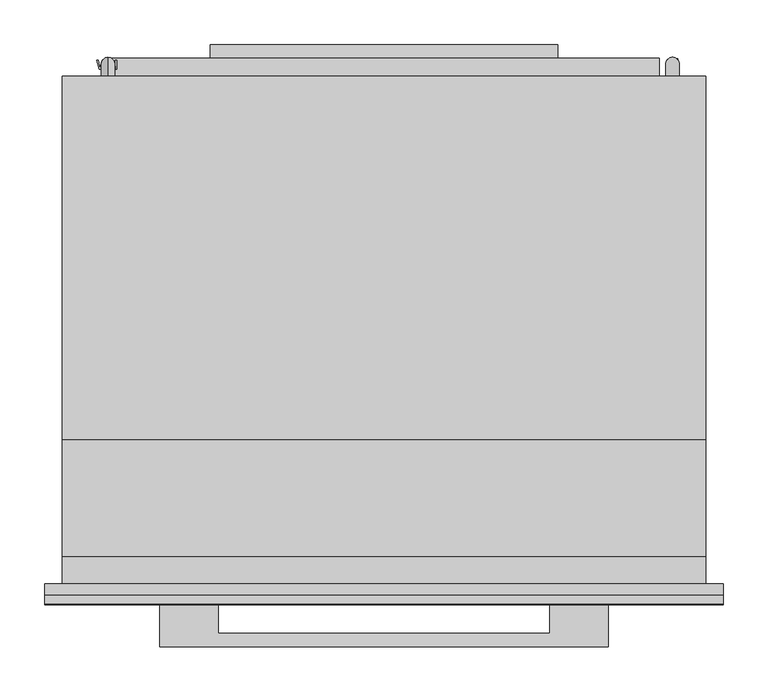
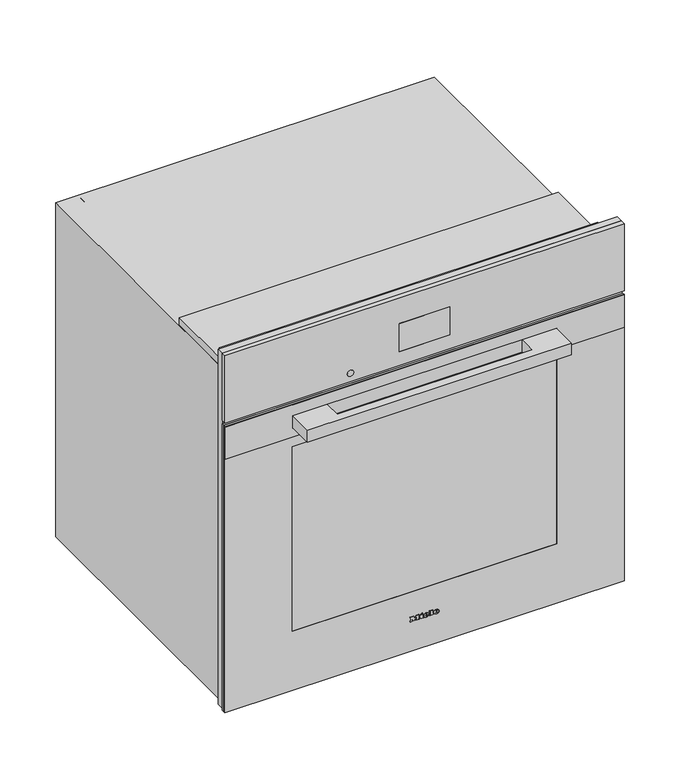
"""IFC4 building model written with IfcOpenShell, lengths in millimetres: proxy geometry, 11805550_USA_H7680BP_EDST-CLST : 22768045_USA_11805550_H7680BP_EDST-CLST."""

import ifcopenshell
import ifcopenshell.guid

model = None  # the IFC model being written
_history = None  # IfcOwnerHistory: only IFC2X3 demands one
_inside = {}  # id of a spatial element -> (the spatial element, [elements in it])
_under = {}  # id of a project, library or spatial element -> (it, [spatial elements below it])
_declared = {}  # id of a project -> (the project, [libraries it declares])
_typed = {}  # id of a type object -> (the type object, [elements of that type])
_made_of = {}  # id of a material, layer set ... -> (it, [elements and type objects made of it])


def new_model(schema):
    """Start an empty IFC model of exactly this schema.

    Asked for "IFC4X3", IfcOpenShell would pick the latest addendum, in which some entities
    have other attributes; the version numbers below select the first issue.
    IFC2X3 requires an IfcOwnerHistory on every rooted entity: one is made here for all.
    """
    global model, _history
    if schema == "IFC4X3":
        model = ifcopenshell.file(schema_version=(4, 3, 0, 0))
    else:
        model = ifcopenshell.file(schema=schema)
    _inside.clear()
    _under.clear()
    _declared.clear()
    _typed.clear()
    _made_of.clear()
    _history = None
    if model.schema == "IFC2X3":
        org = make("IfcOrganization", Name="unknown")
        user = make(
            "IfcPersonAndOrganization",
            ThePerson=make("IfcPerson", FamilyName="unknown"),
            TheOrganization=org,
        )
        app = make(
            "IfcApplication",
            ApplicationDeveloper=org,
            Version="unknown",
            ApplicationFullName="unknown",
            ApplicationIdentifier="unknown",
        )
        _history = make(
            "IfcOwnerHistory",
            OwningUser=user,
            OwningApplication=app,
            ChangeAction="ADDED",
            CreationDate=0,
        )
    return model


def make(cls, **values):
    """One entity of the class cls with the attributes given. An attribute that is None is left unset."""
    return model.create_entity(
        cls, **{name: value for name, value in values.items() if value is not None}
    )


def rooted(cls, **values):
    """An entity with a GlobalId (a new one), such as an element, a storey or a relation."""
    return make(cls, GlobalId=ifcopenshell.guid.new(), OwnerHistory=_history, **values)


def si_unit(unit_type, name, prefix=None):
    """IfcSIUnit, for example si_unit("LENGTHUNIT", "METRE", prefix="MILLI")."""
    return make("IfcSIUnit", UnitType=unit_type, Prefix=prefix, Name=name)


def assignment(units):
    """IfcUnitAssignment: the units of a project."""
    return None if units is None else make("IfcUnitAssignment", Units=units)


def point(xyz):
    """IfcCartesianPoint."""
    return None if xyz is None else make("IfcCartesianPoint", Coordinates=xyz)


def direction(xyz):
    """IfcDirection."""
    return None if xyz is None else make("IfcDirection", DirectionRatios=xyz)


def frame(location, z_axis=None, x_axis=None):
    """IfcAxis2Placement3D, a coordinate frame: its origin and axes. An axis left out is left unset."""
    return make(
        "IfcAxis2Placement3D",
        Location=point(location),
        Axis=direction(z_axis),
        RefDirection=direction(x_axis),
    )


def frame_2d(location, x_axis=None):
    """IfcAxis2Placement2D, a coordinate frame in the plane: its origin and x axis."""
    return make(
        "IfcAxis2Placement2D", Location=point(location), RefDirection=direction(x_axis)
    )


def origin():
    """The frame at (0, 0, 0) with its axes left unset."""
    return frame((0.0, 0.0, 0.0))


def place(relative_to, where):
    """IfcLocalPlacement: puts the frame where relative to a parent placement (None: the world)."""
    return make(
        "IfcLocalPlacement", PlacementRelTo=relative_to, RelativePlacement=where
    )


def context(
    kind, dimensions, precision=None, world=None, true_north=None, identifier=None
):
    """IfcGeometricRepresentationContext, for example the 3D "Model" context."""
    return make(
        "IfcGeometricRepresentationContext",
        ContextIdentifier=identifier,
        ContextType=kind,
        CoordinateSpaceDimension=dimensions,
        Precision=precision,
        WorldCoordinateSystem=world,
        TrueNorth=true_north,
    )


def project(units=None, contexts=None):
    """IfcProject with its units and contexts."""
    return rooted(
        "IfcProject",
        Name="project",
        RepresentationContexts=contexts,
        UnitsInContext=assignment(units),
    )


def spatial(cls, under=None, at=None, **own):
    """A site, building, storey or space (cls), placed at a placement, below another one or the project."""
    s = rooted(cls, ObjectPlacement=at, **own)
    if under is not None:
        _under.setdefault(under.id(), (under, []))[1].append(s)
    return s


def polyline(points):
    """IfcPolyline through the points."""
    return make("IfcPolyline", Points=[point(p) for p in points])


def circle_curve(where, radius):
    """IfcCircle in the frame where."""
    return make("IfcCircle", Position=where, Radius=radius)


def ellipse_curve(where, semi_axis1, semi_axis2):
    """IfcEllipse in the frame where."""
    return make(
        "IfcEllipse", Position=where, SemiAxis1=semi_axis1, SemiAxis2=semi_axis2
    )


def trimmed(basis, trim1, trim2, sense, master):
    """IfcTrimmedCurve: the piece of a basis curve between two trims."""
    return make(
        "IfcTrimmedCurve",
        BasisCurve=basis,
        Trim1=trim1,
        Trim2=trim2,
        SenseAgreement=sense,
        MasterRepresentation=master,
    )


def segment(curve, same_sense, transition):
    """IfcCompositeCurveSegment."""
    return make(
        "IfcCompositeCurveSegment",
        Transition=transition,
        SameSense=same_sense,
        ParentCurve=curve,
    )


def composite_curve(segments, self_intersect=None):
    """IfcCompositeCurve: segments joined end to end."""
    return make("IfcCompositeCurve", Segments=segments, SelfIntersect=self_intersect)


def outline(outer, holes=None, kind="AREA"):
    """IfcArbitraryClosedProfileDef: a profile drawn as a closed curve; with holes, ...WithVoids."""
    if holes is None:
        return make("IfcArbitraryClosedProfileDef", ProfileType=kind, OuterCurve=outer)
    return make(
        "IfcArbitraryProfileDefWithVoids",
        ProfileType=kind,
        OuterCurve=outer,
        InnerCurves=holes,
    )


def extrude(swept, where, along, depth):
    """IfcExtrudedAreaSolid: the profile swept, set in the frame where, extruded along a direction by depth."""
    return make(
        "IfcExtrudedAreaSolid",
        SweptArea=swept,
        Position=where,
        ExtrudedDirection=direction(along),
        Depth=depth,
    )


def faces_of(points, faces, orient=None, outer=None):
    """IfcFace entities. A face is a list of loops; a loop is a list of indices into points, from 0.

    orient and outer hold one flag for each loop. By default every Orientation is true, the
    first loop of a face is its IfcFaceOuterBound and the others are IfcFaceBound.
    """
    made = []
    for i, loops in enumerate(faces):
        bounds = []
        for j, loop in enumerate(loops):
            is_outer = j == 0 if outer is None else outer[i][j]
            bounds.append(
                make(
                    "IfcFaceOuterBound" if is_outer else "IfcFaceBound",
                    Bound=make("IfcPolyLoop", Polygon=[points[k] for k in loop]),
                    Orientation=True if orient is None else orient[i][j],
                )
            )
        made.append(make("IfcFace", Bounds=bounds))
    return made


def faceted_brep(points, faces, orient=None, outer=None, voids=None):
    """IfcFacetedBrep: a solid bounded by flat faces; with voids (closed shells), ...WithVoids."""
    shared = [point(p) for p in points]
    hull = make("IfcClosedShell", CfsFaces=faces_of(shared, faces, orient, outer))
    if voids is None:
        return make("IfcFacetedBrep", Outer=hull)
    return make(
        "IfcFacetedBrepWithVoids",
        Outer=hull,
        Voids=[
            make(cls, CfsFaces=faces_of(shared, fs, o, b)) for cls, fs, o, b in voids
        ],
    )


def shape(context_of_items, identifier, shape_type, items):
    """IfcShapeRepresentation: the items that make up one representation, for example the "Body"."""
    return make(
        "IfcShapeRepresentation",
        ContextOfItems=context_of_items,
        RepresentationIdentifier=identifier,
        RepresentationType=shape_type,
        Items=items,
    )


def source(mapping_origin, context_of_items, identifier, shape_type, items):
    """IfcRepresentationMap: a shape defined once, which mapped items show again and again."""
    return make(
        "IfcRepresentationMap",
        MappingOrigin=mapping_origin,
        MappedRepresentation=shape(context_of_items, identifier, shape_type, items),
    )


def transform(
    local_origin,
    x_axis=None,
    y_axis=None,
    z_axis=None,
    scale=None,
    scale2=None,
    scale3=None,
    uniform=True,
):
    """IfcCartesianTransformationOperator3D, or its non-uniform kind. x_axis, y_axis, z_axis: its Axis1, 2, 3."""
    if uniform:
        return make(
            "IfcCartesianTransformationOperator3D",
            Axis1=direction(x_axis),
            Axis2=direction(y_axis),
            LocalOrigin=point(local_origin),
            Scale=scale,
            Axis3=direction(z_axis),
        )
    return make(
        "IfcCartesianTransformationOperator3DnonUniform",
        Axis1=direction(x_axis),
        Axis2=direction(y_axis),
        LocalOrigin=point(local_origin),
        Scale=scale,
        Axis3=direction(z_axis),
        Scale2=scale2,
        Scale3=scale3,
    )


def mapped(mapping_source, mapping_target):
    """IfcMappedItem: shows the shape of a source again, moved by a transform."""
    return make(
        "IfcMappedItem", MappingSource=mapping_source, MappingTarget=mapping_target
    )


def made_of(thing, what):
    """Note that an element or type object is made of a material, layer set ...; save() writes the relation."""
    if what is not None:
        _made_of.setdefault(what.id(), (what, []))[1].append(thing)
    return thing


def element(
    cls,
    number,
    at=None,
    inside=None,
    cuts=None,
    type_object=None,
    material=None,
    context=None,
    identifier="Body",
    shape_type=None,
    held_by="IfcProductDefinitionShape",
    body=None,
    shapes=None,
    **own,
):
    """One element of the class cls, such as IfcWall. Its Tag is "e" and its number.

    at: its placement. inside: the storey or other place that contains it. cuts: it is an
    opening in that element (IfcRelVoidsElement). A single representation is given by context,
    identifier, shape_type and body (its items); several are given by shapes. held_by: the class
    of the entity that holds the representations. save() writes the other relations.
    """
    e = rooted(cls, Tag="e%d" % number, ObjectPlacement=at, **own)
    if body is not None:
        shapes = [shape(context, identifier, shape_type, body)]
    if shapes is not None:
        e.Representation = make(held_by, Representations=shapes)
    if inside is not None:
        _inside.setdefault(inside.id(), (inside, []))[1].append(e)
    if cuts is not None:
        rooted(
            "IfcRelVoidsElement", RelatingBuildingElement=cuts, RelatedOpeningElement=e
        )
    if type_object is not None:
        _typed.setdefault(type_object.id(), (type_object, []))[1].append(e)
    return made_of(e, material)


def aggregate(whole, parts):
    """IfcRelAggregates: a whole, such as a stair, and the parts it consists of."""
    return rooted("IfcRelAggregates", RelatingObject=whole, RelatedObjects=parts)


def save(model, path):
    """Write the relations noted so far, then the file.

    IfcRelAggregates (storeys below a building ...), IfcRelContainedInSpatialStructure (elements
    in a storey), IfcRelDefinesByType, IfcRelAssociatesMaterial and IfcRelDeclares: one each for
    every whole, place, type object, material and project.
    """
    for whole, parts in _under.values():
        aggregate(whole, parts)
    for where, things in _inside.values():
        rooted(
            "IfcRelContainedInSpatialStructure",
            RelatedElements=things,
            RelatingStructure=where,
        )
    for kind, things in _typed.values():
        rooted("IfcRelDefinesByType", RelatedObjects=things, RelatingType=kind)
    for what, things in _made_of.values():
        rooted("IfcRelAssociatesMaterial", RelatedObjects=things, RelatingMaterial=what)
    for by, libraries in _declared.values():
        rooted("IfcRelDeclares", RelatingContext=by, RelatedDefinitions=libraries)
    model.write(path)


def plane_surface(at):
    """IfcPlane: the flat surface through the origin of the frame at, square to its z axis."""
    return make("IfcPlane", Position=at)


def cylinder_surface(at, radius):
    """IfcCylindricalSurface: all points at the distance radius from the z axis of the frame at."""
    return make("IfcCylindricalSurface", Position=at, Radius=radius)


def revolved_surface(curve, axis_point, axis_direction):
    """IfcSurfaceOfRevolution: the curve turned about the line through axis_point along axis_direction."""
    return make(
        "IfcSurfaceOfRevolution",
        SweptCurve=make("IfcArbitraryOpenProfileDef", ProfileType="CURVE", Curve=curve),
        AxisPosition=make("IfcAxis1Placement", Location=point(axis_point), Axis=direction(axis_direction)),
    )


def extruded_surface(curve, direction_of_extrusion, depth):
    """IfcSurfaceOfLinearExtrusion: the curve pushed along a direction by depth."""
    return make(
        "IfcSurfaceOfLinearExtrusion",
        SweptCurve=make("IfcArbitraryOpenProfileDef", ProfileType="CURVE", Curve=curve),
        ExtrudedDirection=direction(direction_of_extrusion),
        Depth=depth,
    )


def advanced_brep(points, edges, surfaces, faces):
    """IfcAdvancedBrep: a solid bounded by faces that lie on surfaces and meet in shared edges.

    An edge is (start, end): straight between two places in points (the first is 0);
    or (start, end, curve); or (start, end, curve, False) where it runs against its curve.
    A face is (place in surfaces, loops), or (place, loops, False) where it looks against
    its surface's normal. A loop lists edges by number (the first is 1), with a minus sign
    where the edge is run from its end to its start. The first loop is the outer one.
    """
    corners = [point(p) for p in points]
    vertices = [make("IfcVertexPoint", VertexGeometry=c) for c in corners]
    made = []
    for start, end, *more in edges:
        made.append(
            make(
                "IfcEdgeCurve",
                EdgeStart=vertices[start],
                EdgeEnd=vertices[end],
                EdgeGeometry=more[0] if more else make("IfcPolyline", Points=[corners[start], corners[end]]),
                SameSense=more[1] if len(more) > 1 else True,
            )
        )
    hull = []
    for where, loops, *sense in faces:
        bounds = []
        for j, loop in enumerate(loops):
            ring = [make("IfcOrientedEdge", EdgeElement=made[abs(k) - 1], Orientation=k > 0) for k in loop]
            bounds.append(
                make(
                    "IfcFaceOuterBound" if j == 0 else "IfcFaceBound",
                    Bound=make("IfcEdgeLoop", EdgeList=ring),
                    Orientation=True,
                )
            )
        hull.append(make("IfcAdvancedFace", Bounds=bounds, FaceSurface=surfaces[where], SameSense=sense[0] if sense else True))
    return make("IfcAdvancedBrep", Outer=make("IfcClosedShell", CfsFaces=hull))


def specialty_equipment_48775440(model_context):
    return source(origin(), model_context, "Body", "SolidModel", [
        advanced_brep(
        [(21.28, -23.0, 73.133), (21.28, -23.0, 74.042), (27.301, -23.0, 74.042), (16.825, -23.0, 74.042), (19.3, -23.0, 71.0), (27.148, -23.0, 73.133), (24.43, -23.0, 73.133), (22.288, -23.0, 72.125), (21.28, -23.0, 75.194), (21.28, -23.0, 76.175), (22.819, -23.0, 76.175), (22.819, -23.0, 75.194), (21.28, -22.0, 73.133), (22.288, -22.0, 72.125), (24.43, -22.0, 73.133), (27.148, -22.0, 73.133), (19.3, -22.0, 71.0), (16.825, -22.0, 74.042), (27.301, -22.0, 74.042), (21.28, -22.0, 74.042), (21.28, -22.0, 75.194), (22.819, -22.0, 75.194), (22.819, -22.0, 76.175), (21.28, -22.0, 76.175)],
        [
            (0, 1),
            (1, 2),
            (2, 3, ellipse_curve(frame((22.063, -23.0, 74.042), z_axis=(0.0, -1.0, 0.0), x_axis=(-1.0, 0.0, 0.0)), 5.238, 4.329)),
            (3, 4, circle_curve(frame((20.3080491, -23.0, 74.348), z_axis=(0.0, -1.0, 0.0), x_axis=(0.0, 0.0, -1.0)), 3.4964649)),
            (4, 5, circle_curve(frame((21.9581428, -23.0, 76.724), z_axis=(0.0, -1.0, 0.0), x_axis=(0.0, 0.0, -1.0)), 6.3110933)),
            (5, 6),
            (6, 7, circle_curve(frame((22.7279412, -23.0, 73.97), z_axis=(0.0, 1.0, 0.0), x_axis=(0.0, 0.0, -1.0)), 1.896727)),
            (7, 0, circle_curve(frame((22.288, -23.0, 73.133), z_axis=(0.0, 1.0, 0.0), x_axis=(0.0, 0.0, -1.0)), 1.008)),
            (8, 9),
            (9, 10, circle_curve(frame((22.0495, -23.0, 76.175), z_axis=(0.0, 1.0, 0.0), x_axis=(0.0, 0.0, -1.0)), 0.7695)),
            (10, 11),
            (11, 8),
            (12, 13, circle_curve(frame((22.288, -22.0, 73.133), z_axis=(0.0, -1.0, 0.0), x_axis=(0.0, 0.0, -1.0)), 1.008)),
            (13, 14, circle_curve(frame((22.7279412, -22.0, 73.97), z_axis=(0.0, -1.0, 0.0), x_axis=(0.0, 0.0, -1.0)), 1.896727)),
            (14, 15),
            (15, 16, circle_curve(frame((21.9581428, -22.0, 76.724), z_axis=(0.0, 1.0, 0.0), x_axis=(0.0, 0.0, -1.0)), 6.3110933)),
            (16, 17, circle_curve(frame((20.3080491, -22.0, 74.348), z_axis=(0.0, 1.0, 0.0), x_axis=(0.0, 0.0, -1.0)), 3.4964649)),
            (17, 18, ellipse_curve(frame((22.063, -22.0, 74.042), z_axis=(0.0, 1.0, 0.0), x_axis=(-1.0, 0.0, 0.0)), 5.238, 4.329)),
            (18, 19),
            (19, 12),
            (20, 21),
            (21, 22),
            (22, 23, circle_curve(frame((22.0495, -22.0, 76.175), z_axis=(0.0, -1.0, 0.0), x_axis=(0.0, 0.0, -1.0)), 0.7695)),
            (23, 20),
            (0, 12),
            (19, 1),
            (18, 2),
            (5, 15),
            (14, 6),
            (17, 3),
            (13, 7),
            (16, 4),
            (8, 20),
            (23, 9),
            (22, 10),
            (21, 11),
        ],
        [
            plane_surface(frame((21.28, -23.0, 74.042), z_axis=(0.0, -1.0, 0.0), x_axis=(0.0, 0.0, 1.0))),
            plane_surface(frame((21.28, -22.0, 74.042), z_axis=(0.0, 1.0, 0.0), x_axis=(0.0, 0.0, -1.0))),
            plane_surface(frame((21.28, -23.0, 73.133), z_axis=(1.0, 0.0, 0.0), x_axis=(0.0, 1.0, 0.0))),
            plane_surface(frame((21.28, -23.0, 74.042), z_axis=(0.0, 0.0, -1.0), x_axis=(0.0, 1.0, 0.0))),
            plane_surface(frame((27.148, -23.0, 73.133), z_axis=(0.0, 0.0, 1.0), x_axis=(0.0, 1.0, 0.0))),
            extruded_surface(trimmed(ellipse_curve(frame((22.063, -21.0, 74.042), z_axis=(0.0, -1.0, 0.0), x_axis=(-1.0, 0.0, 0.0)), 5.238, 4.329), [point((27.301, -21.0, 74.042))], [point((16.825, -21.0, 74.042))], True, "CARTESIAN"), (0.0, -1.0, 0.0), 1.0),
            revolved_surface(polyline([(22.7279412, -22.0, 72.073273), (22.7279412, -23.0, 72.073273)]), (22.7279412, -22.0, 73.97), (0.0, 1.0, 0.0)),
            revolved_surface(polyline([(22.288, -22.0, 72.125), (22.288, -23.0, 72.125)]), (22.288, -22.0, 73.133), (0.0, 1.0, 0.0)),
            cylinder_surface(frame((20.3080491, -22.0, 74.348), z_axis=(0.0, -1.0, 0.0), x_axis=(0.0, 0.0, -1.0)), 3.4964649),
            cylinder_surface(frame((21.9581428, -22.0, 76.724), z_axis=(0.0, -1.0, 0.0), x_axis=(0.0, 0.0, -1.0)), 6.3110933),
            plane_surface(frame((21.28, -23.0, 75.194), z_axis=(1.0, 0.0, 0.0), x_axis=(0.0, 1.0, 0.0))),
            revolved_surface(polyline([(22.0495, -22.0, 75.4055), (22.0495, -23.0, 75.4055)]), (22.0495, -22.0, 76.175), (0.0, 1.0, 0.0)),
            plane_surface(frame((22.819, -23.0, 76.175), z_axis=(-1.0, 0.0, 0.0), x_axis=(0.0, 1.0, 0.0))),
            plane_surface(frame((22.819, -23.0, 75.194), z_axis=(0.0, 0.0, 1.0), x_axis=(0.0, 1.0, 0.0))),
        ],
        [
            (0, [[1, 2, 3, 4, 5, 6, 7, 8], [9, 10, 11, 12]]),
            (1, [[13, 14, 15, 16, 17, 18, 19, 20], [21, 22, 23, 24]]),
            (2, [[-1, 25, -20, 26]]),
            (3, [[-2, -26, -19, 27]]),
            (4, [[-6, 28, -15, 29]]),
            (5, [[-3, -27, -18, 30]]),
            (6, [[-7, -29, -14, 31]]),
            (7, [[-8, -31, -13, -25]]),
            (8, [[-4, -30, -17, 32]]),
            (9, [[-5, -32, -16, -28]]),
            (10, [[-9, 33, -24, 34]]),
            (11, [[-10, -34, -23, 35]]),
            (12, [[-11, -35, -22, 36]]),
            (13, [[-12, -36, -21, -33]]),
        ],
    ),
        advanced_brep(
        [(2.497, -23.0, 73.133), (2.497, -23.0, 74.042), (8.518, -23.0, 74.042), (-1.958, -23.0, 74.042), (0.517, -23.0, 71.0), (8.365, -23.0, 73.133), (5.647, -23.0, 73.133), (3.505, -23.0, 72.125), (2.497, -23.0, 75.194), (2.497, -23.0, 76.175), (4.036, -23.0, 76.175), (4.036, -23.0, 75.194), (2.497, -22.0, 73.133), (3.505, -22.0, 72.125), (5.647, -22.0, 73.133), (8.365, -22.0, 73.133), (0.517, -22.0, 71.0), (-1.958, -22.0, 74.042), (8.518, -22.0, 74.042), (2.497, -22.0, 74.042), (2.497, -22.0, 75.194), (4.036, -22.0, 75.194), (4.036, -22.0, 76.175), (2.497, -22.0, 76.175)],
        [
            (0, 1),
            (1, 2),
            (2, 3, ellipse_curve(frame((3.28, -23.0, 74.042), z_axis=(0.0, -1.0, 0.0), x_axis=(-1.0, 0.0, 0.0)), 5.238, 4.329)),
            (3, 4, circle_curve(frame((1.5250491, -23.0, 74.348), z_axis=(0.0, -1.0, 0.0), x_axis=(0.0, 0.0, -1.0)), 3.4964649)),
            (4, 5, circle_curve(frame((3.1751428, -23.0, 76.724), z_axis=(0.0, -1.0, 0.0), x_axis=(0.0, 0.0, -1.0)), 6.3110933)),
            (5, 6),
            (6, 7, circle_curve(frame((3.9449412, -23.0, 73.97), z_axis=(0.0, 1.0, 0.0), x_axis=(0.0, 0.0, -1.0)), 1.896727)),
            (7, 0, circle_curve(frame((3.505, -23.0, 73.133), z_axis=(0.0, 1.0, 0.0), x_axis=(0.0, 0.0, -1.0)), 1.008)),
            (8, 9),
            (9, 10, circle_curve(frame((3.2665, -23.0, 76.175), z_axis=(0.0, 1.0, 0.0), x_axis=(0.0, 0.0, -1.0)), 0.7695)),
            (10, 11),
            (11, 8),
            (12, 13, circle_curve(frame((3.505, -22.0, 73.133), z_axis=(0.0, -1.0, 0.0), x_axis=(0.0, 0.0, -1.0)), 1.008)),
            (13, 14, circle_curve(frame((3.9449412, -22.0, 73.97), z_axis=(0.0, -1.0, 0.0), x_axis=(0.0, 0.0, -1.0)), 1.896727)),
            (14, 15),
            (15, 16, circle_curve(frame((3.1751428, -22.0, 76.724), z_axis=(0.0, 1.0, 0.0), x_axis=(0.0, 0.0, -1.0)), 6.3110933)),
            (16, 17, circle_curve(frame((1.5250491, -22.0, 74.348), z_axis=(0.0, 1.0, 0.0), x_axis=(0.0, 0.0, -1.0)), 3.4964649)),
            (17, 18, ellipse_curve(frame((3.28, -22.0, 74.042), z_axis=(0.0, 1.0, 0.0), x_axis=(-1.0, 0.0, 0.0)), 5.238, 4.329)),
            (18, 19),
            (19, 12),
            (20, 21),
            (21, 22),
            (22, 23, circle_curve(frame((3.2665, -22.0, 76.175), z_axis=(0.0, -1.0, 0.0), x_axis=(0.0, 0.0, -1.0)), 0.7695)),
            (23, 20),
            (0, 12),
            (19, 1),
            (18, 2),
            (5, 15),
            (14, 6),
            (17, 3),
            (13, 7),
            (16, 4),
            (8, 20),
            (23, 9),
            (22, 10),
            (21, 11),
        ],
        [
            plane_surface(frame((2.497, -23.0, 74.042), z_axis=(0.0, -1.0, 0.0), x_axis=(0.0, 0.0, 1.0))),
            plane_surface(frame((2.497, -22.0, 74.042), z_axis=(0.0, 1.0, 0.0), x_axis=(0.0, 0.0, -1.0))),
            plane_surface(frame((2.497, -23.0, 73.133), z_axis=(1.0, 0.0, 0.0), x_axis=(0.0, 1.0, 0.0))),
            plane_surface(frame((2.497, -23.0, 74.042), z_axis=(0.0, 0.0, -1.0), x_axis=(0.0, 1.0, 0.0))),
            plane_surface(frame((8.365, -23.0, 73.133), z_axis=(0.0, 0.0, 1.0), x_axis=(0.0, 1.0, 0.0))),
            extruded_surface(trimmed(ellipse_curve(frame((3.28, -21.0, 74.042), z_axis=(0.0, -1.0, 0.0), x_axis=(-1.0, 0.0, 0.0)), 5.238, 4.329), [point((8.518, -21.0, 74.042))], [point((-1.958, -21.0, 74.042))], True, "CARTESIAN"), (0.0, -1.0, 0.0), 1.0),
            revolved_surface(polyline([(3.9449412, -22.0, 72.073273), (3.9449412, -23.0, 72.073273)]), (3.9449412, -22.0, 73.97), (0.0, 1.0, 0.0)),
            revolved_surface(polyline([(3.505, -22.0, 72.125), (3.505, -23.0, 72.125)]), (3.505, -22.0, 73.133), (0.0, 1.0, 0.0)),
            cylinder_surface(frame((1.5250491, -22.0, 74.348), z_axis=(0.0, -1.0, 0.0), x_axis=(0.0, 0.0, -1.0)), 3.4964649),
            cylinder_surface(frame((3.1751428, -22.0, 76.724), z_axis=(0.0, -1.0, 0.0), x_axis=(0.0, 0.0, -1.0)), 6.3110933),
            plane_surface(frame((2.497, -23.0, 75.194), z_axis=(1.0, 0.0, 0.0), x_axis=(0.0, 1.0, 0.0))),
            revolved_surface(polyline([(3.2665, -22.0, 75.4055), (3.2665, -23.0, 75.4055)]), (3.2665, -22.0, 76.175), (0.0, 1.0, 0.0)),
            plane_surface(frame((4.036, -23.0, 76.175), z_axis=(-1.0, 0.0, 0.0), x_axis=(0.0, 1.0, 0.0))),
            plane_surface(frame((4.036, -23.0, 75.194), z_axis=(0.0, 0.0, 1.0), x_axis=(0.0, 1.0, 0.0))),
        ],
        [
            (0, [[1, 2, 3, 4, 5, 6, 7, 8], [9, 10, 11, 12]]),
            (1, [[13, 14, 15, 16, 17, 18, 19, 20], [21, 22, 23, 24]]),
            (2, [[-1, 25, -20, 26]]),
            (3, [[-2, -26, -19, 27]]),
            (4, [[-6, 28, -15, 29]]),
            (5, [[-3, -27, -18, 30]]),
            (6, [[-7, -29, -14, 31]]),
            (7, [[-8, -31, -13, -25]]),
            (8, [[-4, -30, -17, 32]]),
            (9, [[-5, -32, -16, -28]]),
            (10, [[-9, 33, -24, 34]]),
            (11, [[-10, -34, -23, 35]]),
            (12, [[-11, -35, -22, 36]]),
            (13, [[-12, -36, -21, -33]]),
        ],
    ),
        extrude(outline(polyline([(79.469, -7.34), (78.011, -6.656), (79.433, -3.605), (80.891, -4.28), (79.469, -7.34)])), frame((0.0, -23.0, 0.0), z_axis=(0.0, 1.0, 0.0), x_axis=(0.0, 0.0, 1.0)), (0.0, 0.0, 1.0), 1.0),
        extrude(outline(polyline([(77.813, -9.563), (76.202, -9.563), (76.202, -8.492), (72.512, -8.492), (72.512, -9.563), (71.0, -9.563), (71.0, -2.462), (72.512, -2.462), (72.512, -3.506), (77.813, -3.506), (77.813, -9.563)])), frame((0.0, -23.0, 0.0), z_axis=(0.0, 1.0, 0.0), x_axis=(0.0, 0.0, 1.0)), (0.0, 0.0, 1.0), 1.0),
        extrude(outline(polyline([(78.533, 9.022), (78.533, 10.102), (72.512, 10.102), (72.512, 9.022), (71.0, 9.022), (71.0, 16.321), (72.512, 16.321), (72.512, 15.214), (80.0, 15.214), (80.0, 9.022), (78.533, 9.022)])), frame((0.0, -23.0, 0.0), z_axis=(0.0, 1.0, 0.0), x_axis=(0.0, 0.0, 1.0)), (0.0, 0.0, 1.0), 1.0),
        extrude(outline(polyline([(78.533, -27.5), (78.533, -26.411), (72.512, -26.411), (72.512, -27.5), (71.0, -27.5), (71.0, -23.54), (72.512, -23.54), (72.512, -24.62), (76.3341247, -24.62), (71.0, -20.597), (76.4402223, -16.556), (72.512, -16.556), (72.512, -17.663), (71.0, -17.663), (71.0, -10.481), (72.512, -10.481), (72.512, -11.624), (78.533, -11.624), (78.533, -10.481), (80.0, -10.481), (80.0, -15.962), (76.625, -18.59), (80.0, -21.227), (80.0, -27.5), (78.533, -27.5)])), frame((0.0, -23.0, 0.0), z_axis=(0.0, 1.0, 0.0), x_axis=(0.0, 0.0, 1.0)), (0.0, 0.0, 1.0), 1.0),
        extrude(outline(polyline([(-250.0, -70.3), (-250.0, -22.0), (-185.0, -22.0), (-185.0, -55.3), (185.0, -55.3), (185.0, -22.0), (250.0, -22.0), (250.0, -70.3), (-250.0, -70.3)])), frame((0.0, 0.0, 538.0), z_axis=(0.0, 0.0, 1.0), x_axis=(1.0, 0.0, 0.0)), (0.0, 0.0, 1.0), 24.0),
        extrude(outline(polyline([(585.0, 378.5), (585.0, -378.5), (11.0, -378.5), (11.0, 378.5), (585.0, 378.5)]), holes=[polyline([(500.0, 250.5), (130.0, 250.5), (130.0, -250.5), (500.0, -250.5), (500.0, 250.5)])]), frame((0.0, -22.0, 0.0), z_axis=(0.0, 1.0, 0.0), x_axis=(0.0, 0.0, 1.0)), (0.0, 0.0, 1.0), 4.0),
        extrude(outline(polyline([(585.0, 378.5), (585.0, -378.5), (520.0, -378.5), (520.0, 378.5), (585.0, 378.5)]), holes=[polyline([(562.5, -250.5), (562.5, 250.5), (537.5, 250.5), (537.5, -250.5), (562.5, -250.5)])]), frame((0.0, -23.3, 0.0), z_axis=(0.0, 1.0, 0.0), x_axis=(0.0, 0.0, 1.0)), (0.0, 0.0, 1.0), 1.3),
        extrude(outline(polyline([(378.5, -18.0), (-378.5, -18.0), (-378.5, -13.0), (378.5, -13.0), (378.5, -18.0)])), frame((0.0, 0.0, 11.0), z_axis=(0.0, 0.0, 1.0), x_axis=(1.0, 0.0, 0.0)), (0.0, 0.0, 1.0), 574.0),
        extrude(outline(polyline([(-250.5, -18.0), (250.5, -18.0), (250.5, -22.0), (-250.5, -22.0), (-250.5, -18.0)])), frame((0.0, 0.0, 130.0), z_axis=(0.0, 0.0, 1.0), x_axis=(1.0, 0.0, 0.0)), (0.0, 0.0, 1.0), 370.0),
        extrude(outline(polyline([(-48.0, -21.0), (48.0, -21.0), (48.0, -22.0), (-48.0, -22.0), (-48.0, -21.0)])), frame((0.0, 0.0, 620.0), z_axis=(0.0, 0.0, 1.0), x_axis=(1.0, 0.0, 0.0)), (0.0, 0.0, 1.0), 56.0),
        faceted_brep([(378.5, -22.0, 727.0), (-378.5, -22.0, 727.0), (-378.5, -22.0, 592.0), (378.5, -22.0, 592.0), (48.0, -22.0, 676.0), (48.0, -22.0, 620.0), (-48.0, -22.0, 620.0), (-48.0, -22.0, 676.0), (378.5, -13.0, 727.0), (378.5, -13.0, 592.0), (-378.5, -13.0, 592.0), (-378.5, -13.0, 727.0), (48.0, -21.0, 676.0), (-48.0, -21.0, 676.0), (-48.0, -21.0, 620.0), (48.0, -21.0, 620.0)], [[[0, 1, 2, 3], [4, 5, 6, 7]], [[8, 9, 10, 11]], [[1, 0, 8, 11]], [[2, 1, 11, 10]], [[3, 2, 10, 9]], [[0, 3, 9, 8]], [[12, 13, 14, 15]], [[12, 15, 5, 4]], [[15, 14, 6, 5]], [[14, 13, 7, 6]], [[13, 12, 4, 7]]]),
        extrude(outline(composite_curve([segment(trimmed(circle_curve(frame_2d((609.0, -140.5745637)), 6.0), [point((609.0, -146.5745637))], [point((609.0, -134.5745637))], False, "CARTESIAN"), True, "CONTINUOUS"), segment(trimmed(circle_curve(frame_2d((609.0, -140.5745637)), 6.0), [point((609.0, -134.5745637))], [point((609.0, -146.5745637))], False, "CARTESIAN"), True, "CONTINUOUS")], self_intersect=False)), frame((0.0, -22.5, 0.0), z_axis=(0.0, 1.0, 0.0), x_axis=(0.0, 0.0, 1.0)), (0.0, 0.0, 1.0), 1.0),
        extrude(outline(polyline([(327.856335, 586.4164958), (327.856335, 576.4164958), (322.0, 576.4164958), (322.0, 577.4164958), (326.856335, 577.4164958), (326.856335, 580.9164958), (323.9061855, 580.9164958), (323.9061855, 581.9164958), (326.856335, 581.9164958), (326.856335, 585.4164958), (322.0, 585.4164958), (322.0, 586.4164958), (327.856335, 586.4164958)])), frame((0.0, 0.0, 585.0), z_axis=(0.0, 0.0, 1.0), x_axis=(1.0, 0.0, 0.0)), (0.0, 0.0, 1.0), 1.0),
        extrude(outline(polyline([(320.5, 576.4164958), (315.5, 576.4164958), (315.5, 577.4164958), (319.3952098, 577.4164958), (319.3952098, 586.4164958), (320.5, 586.4164958), (320.5, 576.4164958)])), frame((0.0, 0.0, 585.0), z_axis=(0.0, 0.0, 1.0), x_axis=(1.0, 0.0, 0.0)), (0.0, 0.0, 1.0), 1.0),
        advanced_brep(
        [(329.5, 567.0, 616.0), (314.5, 567.0, 616.0), (329.5, 580.5, 616.0), (314.5, 580.5, 616.0), (329.5, 580.5, 586.0), (314.5, 580.5, 586.0)],
        [
            (0, 1, circle_curve(frame((322.0, 567.0, 616.0), z_axis=(0.0, -1.0, 0.0), x_axis=(-1.0, 0.0, 0.0)), 7.5)),
            (1, 0, circle_curve(frame((322.0, 567.0, 616.0), z_axis=(0.0, -1.0, 0.0), x_axis=(-1.0, 0.0, 0.0)), 7.5)),
            (0, 2),
            (2, 3, ellipse_curve(frame((322.0, 580.5, 616.0), z_axis=(0.0, -0.7071067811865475, 0.7071067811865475), x_axis=(0.0, -0.7071067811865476, -0.7071067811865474)), 10.6066017, 7.5)),
            (3, 1),
            (3, 2, ellipse_curve(frame((322.0, 580.5, 616.0), z_axis=(0.0, -0.7071067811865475, 0.7071067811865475), x_axis=(0.0, -0.7071067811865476, -0.7071067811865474)), 10.6066017, 7.5)),
            (4, 5, circle_curve(frame((322.0, 580.5, 586.0), z_axis=(0.0, 0.0, -1.0), x_axis=(-1.0, 0.0, 0.0)), 7.5)),
            (5, 4, circle_curve(frame((322.0, 580.5, 586.0), z_axis=(0.0, 0.0, -1.0), x_axis=(-1.0, 0.0, 0.0)), 7.5)),
            (2, 4),
            (5, 3),
        ],
        [
            plane_surface(frame((322.0, 567.0, 616.0), z_axis=(0.0, -1.0, 0.0), x_axis=(-1.0, 0.0, 0.0))),
            cylinder_surface(frame((322.0, 567.0, 616.0), z_axis=(0.0, -1.0, 0.0), x_axis=(-1.0, 0.0, 0.0)), 7.5),
            plane_surface(frame((322.0, 580.5, 586.0), z_axis=(0.0, 0.0, -1.0), x_axis=(-1.0, 0.0, 0.0))),
            cylinder_surface(frame((322.0, 580.5, 616.0), z_axis=(0.0, 0.0, 1.0), x_axis=(-1.0, 0.0, 0.0)), 7.5),
        ],
        [
            (0, [[1, 2]]),
            (1, [[-1, 3, 4, 5]]),
            (1, [[-2, -5, 6, -3]]),
            (2, [[7, 8]]),
            (3, [[-4, 9, -8, 10]]),
            (3, [[-6, -10, -7, -9]]),
        ],
    ),
        extrude(outline(polyline([(-299.6202453, 584.6579034), (-298.3679159, 584.6579034), (-298.3679159, 574.6085654), (-299.6149696, 574.6085654), (-299.6149696, 578.0788376), (-301.2450476, 579.7089156), (-305.0884371, 574.6085654), (-306.7066233, 574.6085654), (-302.2301778, 580.5490092), (-306.5150452, 584.6543198), (-304.7713587, 584.6543198), (-299.6202453, 579.7190632), (-299.6202453, 584.6579034)])), frame((0.0, 0.0, 614.0), z_axis=(0.0, 0.0, 1.0), x_axis=(1.0, 0.0, 0.0)), (0.0, 0.0, 1.0), 1.0),
        extrude(outline(polyline([(-307.9869589, 584.6543198), (-306.6749258, 584.6543198), (-309.4307199, 574.6085654), (-310.9513148, 574.6085654), (-313.5193527, 583.4401554), (-316.2529808, 574.6085654), (-317.6013152, 574.6085654), (-320.3417347, 584.6663082), (-319.072273, 584.6663082), (-316.9158246, 576.0172661), (-314.4357517, 584.6663082), (-312.5770153, 584.6663082), (-310.0671021, 576.0346114), (-307.9869589, 584.6543198)])), frame((0.0, 0.0, 614.0), z_axis=(0.0, 0.0, 1.0), x_axis=(1.0, 0.0, 0.0)), (0.0, 0.0, 1.0), 1.0),
        advanced_brep(
        [(-308.0, 573.0, 615.0), (-308.0, 588.0, 615.0), (-308.0, 573.0, 637.5), (-308.0, 588.0, 652.5), (-308.0, 559.0, 637.5), (-308.0, 559.0, 652.5)],
        [
            (0, 1, circle_curve(frame((-308.0, 580.5, 615.0), z_axis=(0.0, 0.0, -1.0), x_axis=(0.0, 1.0, 0.0)), 7.5)),
            (1, 0, circle_curve(frame((-308.0, 580.5, 615.0), z_axis=(0.0, 0.0, -1.0), x_axis=(0.0, 1.0, 0.0)), 7.5)),
            (0, 2),
            (2, 3, ellipse_curve(frame((-308.0, 580.5, 645.0), z_axis=(0.0, 0.7071067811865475, -0.7071067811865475), x_axis=(0.0, -0.7071067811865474, -0.7071067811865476)), 10.6066017, 7.5)),
            (3, 1),
            (3, 2, ellipse_curve(frame((-308.0, 580.5, 645.0), z_axis=(0.0, 0.7071067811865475, -0.7071067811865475), x_axis=(0.0, -0.7071067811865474, -0.7071067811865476)), 10.6066017, 7.5)),
            (4, 5, circle_curve(frame((-308.0, 559.0, 645.0), z_axis=(0.0, -1.0, 0.0), x_axis=(0.0, 0.0, 1.0)), 7.5)),
            (5, 4, circle_curve(frame((-308.0, 559.0, 645.0), z_axis=(0.0, -1.0, 0.0), x_axis=(0.0, 0.0, 1.0)), 7.5)),
            (2, 4),
            (5, 3),
        ],
        [
            plane_surface(frame((-308.0, 580.5, 615.0), z_axis=(0.0, 0.0, -1.0), x_axis=(-1.0, 0.0, 0.0))),
            cylinder_surface(frame((-308.0, 580.5, 615.0), z_axis=(0.0, 0.0, -1.0), x_axis=(0.0, 1.0, 0.0)), 7.5),
            plane_surface(frame((-308.0, 559.0, 645.0), z_axis=(0.0, -1.0, 0.0), x_axis=(-1.0, 0.0, 0.0))),
            cylinder_surface(frame((-308.0, 580.5, 645.0), z_axis=(0.0, 1.0, 0.0), x_axis=(0.0, 0.0, 1.0)), 7.5),
        ],
        [
            (0, [[1, 2]]),
            (1, [[-1, 3, 4, 5]]),
            (1, [[-2, -5, 6, -3]]),
            (2, [[7, 8]]),
            (3, [[-4, 9, -8, 10]]),
            (3, [[-6, -10, -7, -9]]),
        ],
    ),
        faceted_brep([(353.5, 25.0, 593.0), (-353.5, 25.0, 593.0), (-353.5, 25.0, 15.0), (353.5, 25.0, 15.0), (-312.5, 25.0, 526.0), (312.5, 25.0, 526.0), (312.5, 25.0, 103.0), (-312.5, 25.0, 103.0), (353.5, 0.0, 593.0), (-353.5, 0.0, 593.0), (-353.5, 0.0, 15.0), (353.5, 0.0, 15.0), (359.0, 0.0, 670.0), (359.0, 0.0, 0.0), (359.0, 567.0, 0.0), (359.0, 567.0, 670.0), (-359.0, 0.0, 0.0), (-359.0, 0.0, 670.0), (-359.0, 567.0, 670.0), (-359.0, 567.0, 0.0), (-307.0, 567.0, 0.0), (-307.0, 587.0, 0.0), (307.0, 587.0, 0.0), (307.0, 567.0, 0.0), (-307.0, 587.0, 584.0), (307.0, 587.0, 584.0), (312.5, 433.0, 526.0), (-312.5, 433.0, 526.0), (-312.5, 433.0, 103.0), (312.5, 433.0, 103.0), (-307.0, 567.0, 584.0), (307.0, 567.0, 584.0)], [[[0, 1, 2, 3], [4, 5, 6, 7]], [[1, 0, 8, 9]], [[2, 1, 9, 10]], [[0, 3, 11, 8]], [[12, 13, 14, 15]], [[16, 17, 18, 19]], [[13, 16, 19, 20, 21, 22, 23, 14]], [[22, 21, 24, 25]], [[17, 12, 15, 18]], [[16, 13, 12, 17], [9, 8, 11, 10]], [[26, 27, 28, 29]], [[27, 26, 5, 4]], [[28, 27, 4, 7]], [[29, 28, 7, 6]], [[26, 29, 6, 5]], [[3, 2, 10, 11]], [[25, 24, 30, 31]], [[20, 30, 24, 21]], [[14, 23, 31, 30, 20, 19, 18, 15]], [[31, 23, 22, 25]]]),
        extrude(outline(polyline([(-194.0, 602.0), (194.0, 602.0), (194.0, 587.0), (-194.0, 587.0), (-194.0, 602.0)])), frame((0.0, 0.0, 230.0), z_axis=(0.0, 0.0, 1.0), x_axis=(1.0, 0.0, 0.0)), (0.0, 0.0, 1.0), 158.0),
        extrude(outline(polyline([(30.0, 705.0), (30.0, 686.0), (161.0, 686.0), (161.0, 670.0), (0.0, 670.0), (0.0, 705.0), (30.0, 705.0)])), frame((-359.0, 0.0, 0.0), z_axis=(1.0, 0.0, 0.0), x_axis=(0.0, 1.0, 0.0)), (0.0, 0.0, 1.0), 718.0),
        extrude(outline(polyline([(15.0, 378.5), (727.0, 378.5), (727.0, -378.5), (15.0, -378.5), (15.0, -353.5), (593.0, -353.5), (593.0, 353.5), (15.0, 353.5), (15.0, 378.5)])), frame((0.0, -13.0, 0.0), z_axis=(0.0, 1.0, 0.0), x_axis=(0.0, 0.0, 1.0)), (0.0, 0.0, 1.0), 13.0),
    ])


if __name__ == "__main__":
    model = new_model("IFC4")
    model_context = context("Model", 3, world=origin())
    ifc_project = project(units=[si_unit("LENGTHUNIT", "METRE", prefix="MILLI")], contexts=[model_context])
    site = spatial("IfcSite", under=ifc_project)
    building = spatial("IfcBuilding", under=site)
    placement = place(None, origin())
    specialty_equipment_shape = specialty_equipment_48775440(model_context)
    element("IfcBuildingElementProxy", 1, Name="11805550_USA_H7680BP_EDST-CLST : 22768045_USA_11805550_H7680BP_EDST-CLST", ObjectType="11805550_USA_H7680BP_EDST-CLST : 22768045_USA_11805550_H7680BP_EDST-CLST", at=placement, inside=building, context=model_context, shape_type="MappedRepresentation", body=[
        mapped(specialty_equipment_shape, transform((0.0, 0.0, 0.0), x_axis=(1.0, 0.0, 0.0), y_axis=(0.0, 1.0, 0.0), z_axis=(0.0, 0.0, 1.0))),
    ])
    save(model, "model.ifc")
